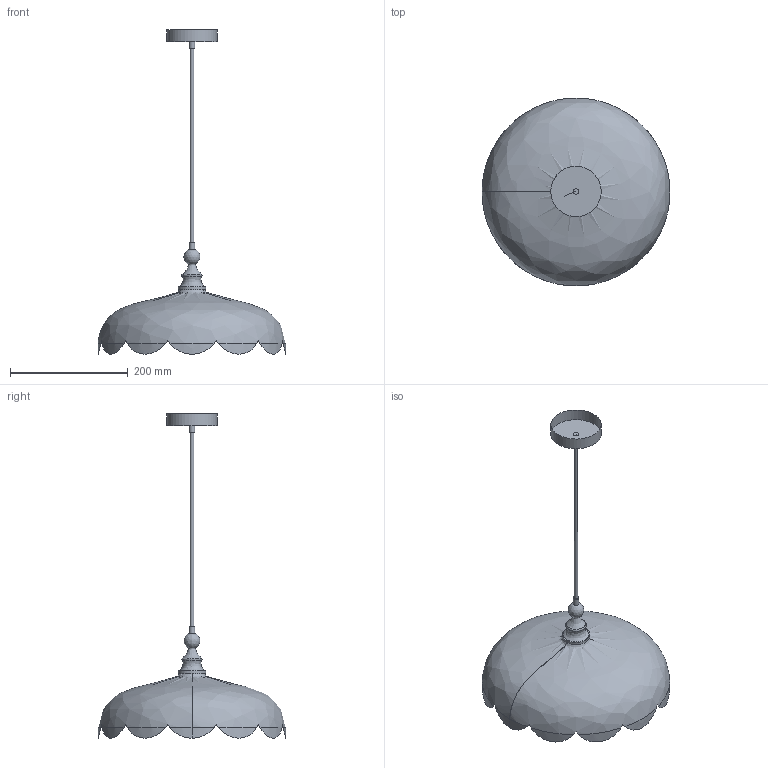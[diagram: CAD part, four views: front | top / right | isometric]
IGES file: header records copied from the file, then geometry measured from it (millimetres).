
Global section: file name: Z:\; native system: Rhinoceros ( Nov 10 2025 ); preprocessor: Trout Lake IGES 012 Nov 10 2025; date: 260516.094121; units: millimetre
Bounding box: 318.94 x 318.94 x 551.31 mm (x, y, z)
Surface area: 176174.7 mm2 (no closed solid volume)
Topology: 0 solids, 0 shells, 47 faces, 180 edges, 148 vertices
Faces by surface type: bspline 47
